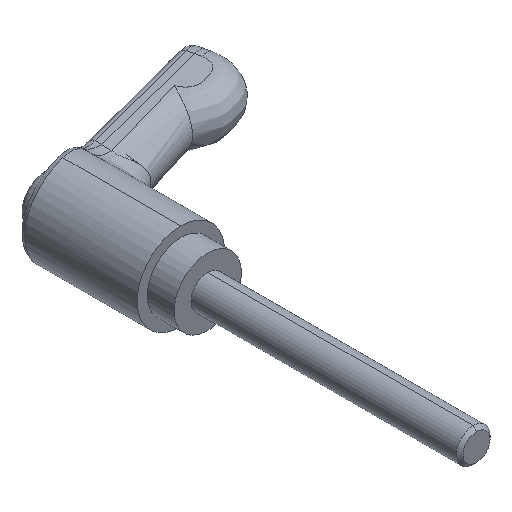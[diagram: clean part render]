
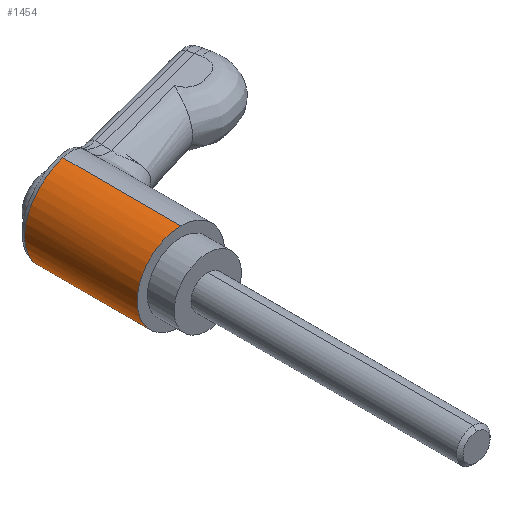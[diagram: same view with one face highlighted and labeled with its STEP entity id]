
A CAD part, isometric view. The second image highlights one B-rep face of the part: STEP entity #1454.
In plain terms, the highlighted cylindrical face has radius 6.5 mm (diameter 13 mm), a partial arc.
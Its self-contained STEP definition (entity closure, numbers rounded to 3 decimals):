
#81 = CARTESIAN_POINT ( 'NONE',  ( -6.5, 16.747, -0.425 ) ) ;
#121 = CARTESIAN_POINT ( 'NONE',  ( -1.659, 17.226, -6.288 ) ) ;
#140 = CARTESIAN_POINT ( 'NONE',  ( -2.267, 17.126, -6.095 ) ) ;
#163 = CARTESIAN_POINT ( 'NONE',  ( 0., 17.56, 6.5 ) ) ;
#179 = CARTESIAN_POINT ( 'NONE',  ( 0., -2.841, 0. ) ) ;
#192 = DIRECTION ( 'NONE',  ( 0., -1., 0. ) ) ;
#237 = DIRECTION ( 'NONE',  ( 0., -1., 0. ) ) ;
#327 = CARTESIAN_POINT ( 'NONE',  ( -6.08, 16.761, 2.309 ) ) ;
#341 = CARTESIAN_POINT ( 'NONE',  ( -5.152, 16.808, 3.986 ) ) ;
#374 = CARTESIAN_POINT ( 'NONE',  ( 0., 17.56, -6.5 ) ) ;
#394 = CARTESIAN_POINT ( 'NONE',  ( -4.875, 16.827, 4.321 ) ) ;
#477 = B_SPLINE_CURVE_WITH_KNOTS ( 'NONE', 3,
 ( #1884, #3447, #842, #2443, #1565, #2476, #1647, #1703, #2983, #1460, #900, #394, #341, #2532, #1956, #327, #3272, #1407, #3327, #579, #2798, #81, #615, #3293, #2741, #2723, #3036, #1720, #1141, #2775, #2200, #3058, #1666, #883, #653, #140, #1390, #121, #1204, #2757, #1684, #374 ),
 .UNSPECIFIED., .F., .F.,
 ( 4, 2, 2, 2, 2, 2, 2, 2, 2, 2, 2, 2, 2, 2, 2, 2, 2, 2, 2, 2, 4 ),
 ( 0.005, 0.006, 0.007, 0.008, 0.008, 0.01, 0.011, 0.012, 0.013, 0.014, 0.015, 0.016, 0.017, 0.019, 0.02, 0.021, 0.021, 0.023, 0.023, 0.024, 0.025 ),
 .UNSPECIFIED. ) ;
#579 = CARTESIAN_POINT ( 'NONE',  ( -6.457, 16.748, 0.863 ) ) ;
#615 = CARTESIAN_POINT ( 'NONE',  ( -6.458, 16.748, -0.85 ) ) ;
#653 = CARTESIAN_POINT ( 'NONE',  ( -2.856, 17.039, -5.854 ) ) ;
#656 = VERTEX_POINT ( 'NONE', #2434 ) ;
#759 = ORIENTED_EDGE ( 'NONE', *, *, #2409, .T. ) ;
#839 = VERTEX_POINT ( 'NONE', #2991 ) ;
#842 = CARTESIAN_POINT ( 'NONE',  ( -0.83, 17.38, 6.461 ) ) ;
#883 = CARTESIAN_POINT ( 'NONE',  ( -3.23, 16.99, -5.657 ) ) ;
#899 = DIRECTION ( 'NONE',  ( 0., 0., -1. ) ) ;
#900 = CARTESIAN_POINT ( 'NONE',  ( -4.269, 16.878, 4.92 ) ) ;
#1009 = DIRECTION ( 'NONE',  ( 0., 0., -1. ) ) ;
#1034 = EDGE_CURVE ( 'NONE', #1293, #1254, #3123, .T. ) ;
#1141 = CARTESIAN_POINT ( 'NONE',  ( -4.88, 16.827, -4.314 ) ) ;
#1184 = CARTESIAN_POINT ( 'NONE',  ( 0., 0., 0. ) ) ;
#1204 = CARTESIAN_POINT ( 'NONE',  ( -1.454, 17.263, -6.339 ) ) ;
#1254 = VERTEX_POINT ( 'NONE', #3416 ) ;
#1264 = DIRECTION ( 'NONE',  ( 0., -1., 0. ) ) ;
#1293 = VERTEX_POINT ( 'NONE', #163 ) ;
#1331 = CIRCLE ( 'NONE', #2093, 6.5 ) ;
#1390 = CARTESIAN_POINT ( 'NONE',  ( -2.065, 17.158, -6.167 ) ) ;
#1407 = CARTESIAN_POINT ( 'NONE',  ( -6.279, 16.754, 1.696 ) ) ;
#1454 = ADVANCED_FACE ( 'NONE', ( #2852 ), #2835, .T. ) ;
#1460 = CARTESIAN_POINT ( 'NONE',  ( -3.94, 16.909, 5.188 ) ) ;
#1565 = CARTESIAN_POINT ( 'NONE',  ( -2.067, 17.156, 6.177 ) ) ;
#1647 = CARTESIAN_POINT ( 'NONE',  ( -2.843, 17.042, 5.849 ) ) ;
#1666 = CARTESIAN_POINT ( 'NONE',  ( -3.763, 16.93, -5.305 ) ) ;
#1681 = ORIENTED_EDGE ( 'NONE', *, *, #1768, .T. ) ;
#1684 = CARTESIAN_POINT ( 'NONE',  ( -0.421, 17.464, -6.5 ) ) ;
#1703 = CARTESIAN_POINT ( 'NONE',  ( -3.219, 16.993, 5.651 ) ) ;
#1720 = CARTESIAN_POINT ( 'NONE',  ( -5.152, 16.808, -3.986 ) ) ;
#1768 = EDGE_CURVE ( 'NONE', #1293, #656, #477, .T. ) ;
#1780 = CARTESIAN_POINT ( 'NONE',  ( 0., -2.841, 6.5 ) ) ;
#1884 = CARTESIAN_POINT ( 'NONE',  ( 0., 17.56, 6.5 ) ) ;
#1956 = CARTESIAN_POINT ( 'NONE',  ( -5.831, 16.771, 2.903 ) ) ;
#2035 = AXIS2_PLACEMENT_3D ( 'NONE', #179, #192, #1009 ) ;
#2093 = AXIS2_PLACEMENT_3D ( 'NONE', #1184, #3271, #899 ) ;
#2200 = CARTESIAN_POINT ( 'NONE',  ( -4.269, 16.879, -4.906 ) ) ;
#2326 = VECTOR ( 'NONE', #1264, 1000. ) ;
#2378 = ORIENTED_EDGE ( 'NONE', *, *, #1034, .F. ) ;
#2382 = EDGE_CURVE ( 'NONE', #1254, #839, #1331, .T. ) ;
#2398 = CARTESIAN_POINT ( 'NONE',  ( 0., -2.841, -6.5 ) ) ;
#2409 = EDGE_CURVE ( 'NONE', #656, #839, #2640, .T. ) ;
#2434 = CARTESIAN_POINT ( 'NONE',  ( 0., 17.56, -6.5 ) ) ;
#2443 = CARTESIAN_POINT ( 'NONE',  ( -1.662, 17.224, 6.298 ) ) ;
#2476 = CARTESIAN_POINT ( 'NONE',  ( -2.652, 17.069, 5.938 ) ) ;
#2532 = CARTESIAN_POINT ( 'NONE',  ( -5.629, 16.78, 3.278 ) ) ;
#2572 = VECTOR ( 'NONE', #237, 1000. ) ;
#2640 = LINE ( 'NONE', #2398, #2572 ) ;
#2723 = CARTESIAN_POINT ( 'NONE',  ( -5.837, 16.77, -2.893 ) ) ;
#2741 = CARTESIAN_POINT ( 'NONE',  ( -6.166, 16.757, -2.101 ) ) ;
#2757 = CARTESIAN_POINT ( 'NONE',  ( -0.837, 17.378, -6.459 ) ) ;
#2775 = CARTESIAN_POINT ( 'NONE',  ( -4.428, 16.864, -4.764 ) ) ;
#2798 = CARTESIAN_POINT ( 'NONE',  ( -6.5, 16.747, 0.435 ) ) ;
#2815 = EDGE_LOOP ( 'NONE', ( #2378, #1681, #759, #3062 ) ) ;
#2835 = CYLINDRICAL_SURFACE ( 'NONE', #2035, 6.5 ) ;
#2852 = FACE_OUTER_BOUND ( 'NONE', #2815, .T. ) ;
#2983 = CARTESIAN_POINT ( 'NONE',  ( -3.405, 16.97, 5.541 ) ) ;
#2991 = CARTESIAN_POINT ( 'NONE',  ( 0., 0., -6.5 ) ) ;
#3036 = CARTESIAN_POINT ( 'NONE',  ( -5.633, 16.78, -3.271 ) ) ;
#3058 = CARTESIAN_POINT ( 'NONE',  ( -3.936, 16.911, -5.177 ) ) ;
#3062 = ORIENTED_EDGE ( 'NONE', *, *, #2382, .F. ) ;
#3123 = LINE ( 'NONE', #1780, #2326 ) ;
#3271 = DIRECTION ( 'NONE',  ( 0., -1., 0. ) ) ;
#3272 = CARTESIAN_POINT ( 'NONE',  ( -6.153, 16.758, 2.105 ) ) ;
#3293 = CARTESIAN_POINT ( 'NONE',  ( -6.292, 16.753, -1.686 ) ) ;
#3327 = CARTESIAN_POINT ( 'NONE',  ( -6.331, 16.752, 1.489 ) ) ;
#3416 = CARTESIAN_POINT ( 'NONE',  ( 0., 0., 6.5 ) ) ;
#3447 = CARTESIAN_POINT ( 'NONE',  ( -0.414, 17.466, 6.5 ) ) ;
